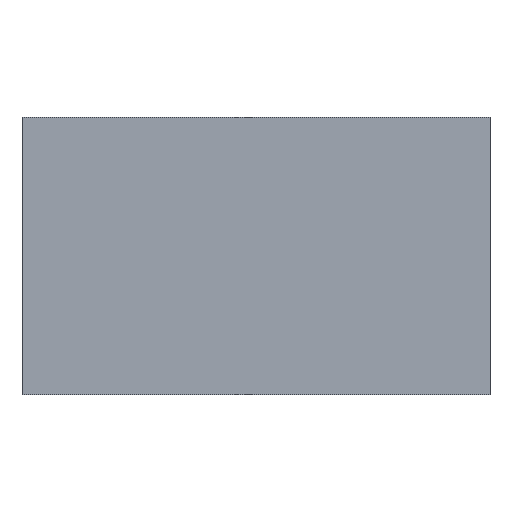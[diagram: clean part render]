
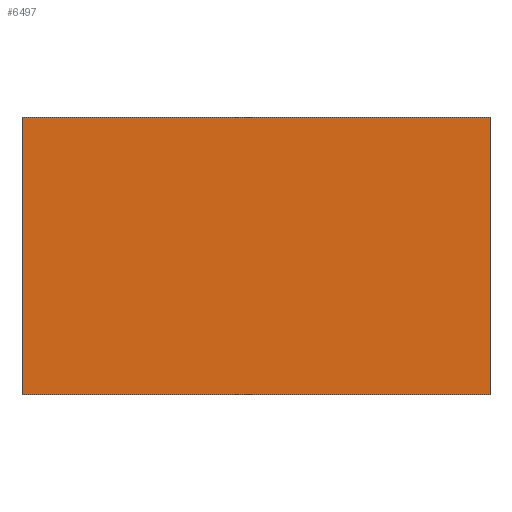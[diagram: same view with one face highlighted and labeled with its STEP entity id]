
A CAD part, top view. The second image highlights one B-rep face of the part: STEP entity #6497.
In plain terms, the highlighted planar face has unit normal (0, 0, 1).
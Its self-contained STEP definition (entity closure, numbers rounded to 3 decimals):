
#332 = PLANE('',#333);
#333 = AXIS2_PLACEMENT_3D('',#334,#335,#336);
#334 = CARTESIAN_POINT('',(0.,0.,0.));
#335 = DIRECTION('',(0.,1.,0.));
#336 = DIRECTION('',(1.,0.,0.));
#360 = PLANE('',#361);
#361 = AXIS2_PLACEMENT_3D('',#362,#363,#364);
#362 = CARTESIAN_POINT('',(0.,30.,0.));
#363 = DIRECTION('',(1.,0.,0.));
#364 = DIRECTION('',(0.,-1.,0.));
#388 = PLANE('',#389);
#389 = AXIS2_PLACEMENT_3D('',#390,#391,#392);
#390 = CARTESIAN_POINT('',(50.6,30.,0.));
#391 = DIRECTION('',(0.,-1.,0.));
#392 = DIRECTION('',(-1.,0.,0.));
#414 = PLANE('',#415);
#415 = AXIS2_PLACEMENT_3D('',#416,#417,#418);
#416 = CARTESIAN_POINT('',(50.6,0.,0.));
#417 = DIRECTION('',(-1.,0.,0.));
#418 = DIRECTION('',(0.,1.,0.));
#2622 = VERTEX_POINT('',#2623);
#2623 = CARTESIAN_POINT('',(0.,0.,10.74));
#2644 = EDGE_CURVE('',#2622,#2645,#2647,.T.);
#2645 = VERTEX_POINT('',#2646);
#2646 = CARTESIAN_POINT('',(50.6,0.,10.74));
#2647 = SURFACE_CURVE('',#2648,(#2652,#2659),.PCURVE_S1.);
#2648 = LINE('',#2649,#2650);
#2649 = CARTESIAN_POINT('',(0.,0.,10.74));
#2650 = VECTOR('',#2651,1.);
#2651 = DIRECTION('',(1.,0.,0.));
#2652 = PCURVE('',#332,#2653);
#2653 = DEFINITIONAL_REPRESENTATION('',(#2654),#2658);
#2654 = LINE('',#2655,#2656);
#2655 = CARTESIAN_POINT('',(0.,-10.74));
#2656 = VECTOR('',#2657,1.);
#2657 = DIRECTION('',(1.,0.));
#2658 = ( GEOMETRIC_REPRESENTATION_CONTEXT(2) 
PARAMETRIC_REPRESENTATION_CONTEXT() REPRESENTATION_CONTEXT('2D SPACE',''
  ) );
#2659 = PCURVE('',#2660,#2665);
#2660 = PLANE('',#2661);
#2661 = AXIS2_PLACEMENT_3D('',#2662,#2663,#2664);
#2662 = CARTESIAN_POINT('',(0.,0.,10.74));
#2663 = DIRECTION('',(0.,0.,-1.));
#2664 = DIRECTION('',(-1.,0.,0.));
#2665 = DEFINITIONAL_REPRESENTATION('',(#2666),#2670);
#2666 = LINE('',#2667,#2668);
#2667 = CARTESIAN_POINT('',(0.,0.));
#2668 = VECTOR('',#2669,1.);
#2669 = DIRECTION('',(-1.,0.));
#2670 = ( GEOMETRIC_REPRESENTATION_CONTEXT(2) 
PARAMETRIC_REPRESENTATION_CONTEXT() REPRESENTATION_CONTEXT('2D SPACE',''
  ) );
#2698 = VERTEX_POINT('',#2699);
#2699 = CARTESIAN_POINT('',(0.,30.,10.74));
#2720 = EDGE_CURVE('',#2698,#2622,#2721,.T.);
#2721 = SURFACE_CURVE('',#2722,(#2726,#2733),.PCURVE_S1.);
#2722 = LINE('',#2723,#2724);
#2723 = CARTESIAN_POINT('',(0.,30.,10.74));
#2724 = VECTOR('',#2725,1.);
#2725 = DIRECTION('',(0.,-1.,0.));
#2726 = PCURVE('',#360,#2727);
#2727 = DEFINITIONAL_REPRESENTATION('',(#2728),#2732);
#2728 = LINE('',#2729,#2730);
#2729 = CARTESIAN_POINT('',(0.,-10.74));
#2730 = VECTOR('',#2731,1.);
#2731 = DIRECTION('',(1.,0.));
#2732 = ( GEOMETRIC_REPRESENTATION_CONTEXT(2) 
PARAMETRIC_REPRESENTATION_CONTEXT() REPRESENTATION_CONTEXT('2D SPACE',''
  ) );
#2733 = PCURVE('',#2660,#2734);
#2734 = DEFINITIONAL_REPRESENTATION('',(#2735),#2739);
#2735 = LINE('',#2736,#2737);
#2736 = CARTESIAN_POINT('',(0.,30.));
#2737 = VECTOR('',#2738,1.);
#2738 = DIRECTION('',(0.,-1.));
#2739 = ( GEOMETRIC_REPRESENTATION_CONTEXT(2) 
PARAMETRIC_REPRESENTATION_CONTEXT() REPRESENTATION_CONTEXT('2D SPACE',''
  ) );
#2747 = EDGE_CURVE('',#2645,#2748,#2750,.T.);
#2748 = VERTEX_POINT('',#2749);
#2749 = CARTESIAN_POINT('',(50.6,30.,10.74));
#2750 = SURFACE_CURVE('',#2751,(#2755,#2762),.PCURVE_S1.);
#2751 = LINE('',#2752,#2753);
#2752 = CARTESIAN_POINT('',(50.6,0.,10.74));
#2753 = VECTOR('',#2754,1.);
#2754 = DIRECTION('',(0.,1.,0.));
#2755 = PCURVE('',#414,#2756);
#2756 = DEFINITIONAL_REPRESENTATION('',(#2757),#2761);
#2757 = LINE('',#2758,#2759);
#2758 = CARTESIAN_POINT('',(0.,-10.74));
#2759 = VECTOR('',#2760,1.);
#2760 = DIRECTION('',(1.,0.));
#2761 = ( GEOMETRIC_REPRESENTATION_CONTEXT(2) 
PARAMETRIC_REPRESENTATION_CONTEXT() REPRESENTATION_CONTEXT('2D SPACE',''
  ) );
#2762 = PCURVE('',#2660,#2763);
#2763 = DEFINITIONAL_REPRESENTATION('',(#2764),#2768);
#2764 = LINE('',#2765,#2766);
#2765 = CARTESIAN_POINT('',(-50.6,0.));
#2766 = VECTOR('',#2767,1.);
#2767 = DIRECTION('',(0.,1.));
#2768 = ( GEOMETRIC_REPRESENTATION_CONTEXT(2) 
PARAMETRIC_REPRESENTATION_CONTEXT() REPRESENTATION_CONTEXT('2D SPACE',''
  ) );
#2796 = EDGE_CURVE('',#2748,#2698,#2797,.T.);
#2797 = SURFACE_CURVE('',#2798,(#2802,#2809),.PCURVE_S1.);
#2798 = LINE('',#2799,#2800);
#2799 = CARTESIAN_POINT('',(50.6,30.,10.74));
#2800 = VECTOR('',#2801,1.);
#2801 = DIRECTION('',(-1.,0.,0.));
#2802 = PCURVE('',#388,#2803);
#2803 = DEFINITIONAL_REPRESENTATION('',(#2804),#2808);
#2804 = LINE('',#2805,#2806);
#2805 = CARTESIAN_POINT('',(0.,-10.74));
#2806 = VECTOR('',#2807,1.);
#2807 = DIRECTION('',(1.,0.));
#2808 = ( GEOMETRIC_REPRESENTATION_CONTEXT(2) 
PARAMETRIC_REPRESENTATION_CONTEXT() REPRESENTATION_CONTEXT('2D SPACE',''
  ) );
#2809 = PCURVE('',#2660,#2810);
#2810 = DEFINITIONAL_REPRESENTATION('',(#2811),#2815);
#2811 = LINE('',#2812,#2813);
#2812 = CARTESIAN_POINT('',(-50.6,30.));
#2813 = VECTOR('',#2814,1.);
#2814 = DIRECTION('',(1.,0.));
#2815 = ( GEOMETRIC_REPRESENTATION_CONTEXT(2) 
PARAMETRIC_REPRESENTATION_CONTEXT() REPRESENTATION_CONTEXT('2D SPACE',''
  ) );
#6497 = ADVANCED_FACE('',(#6498),#2660,.F.);
#6498 = FACE_BOUND('',#6499,.T.);
#6499 = EDGE_LOOP('',(#6500,#6501,#6502,#6503));
#6500 = ORIENTED_EDGE('',*,*,#2644,.T.);
#6501 = ORIENTED_EDGE('',*,*,#2747,.T.);
#6502 = ORIENTED_EDGE('',*,*,#2796,.T.);
#6503 = ORIENTED_EDGE('',*,*,#2720,.T.);
